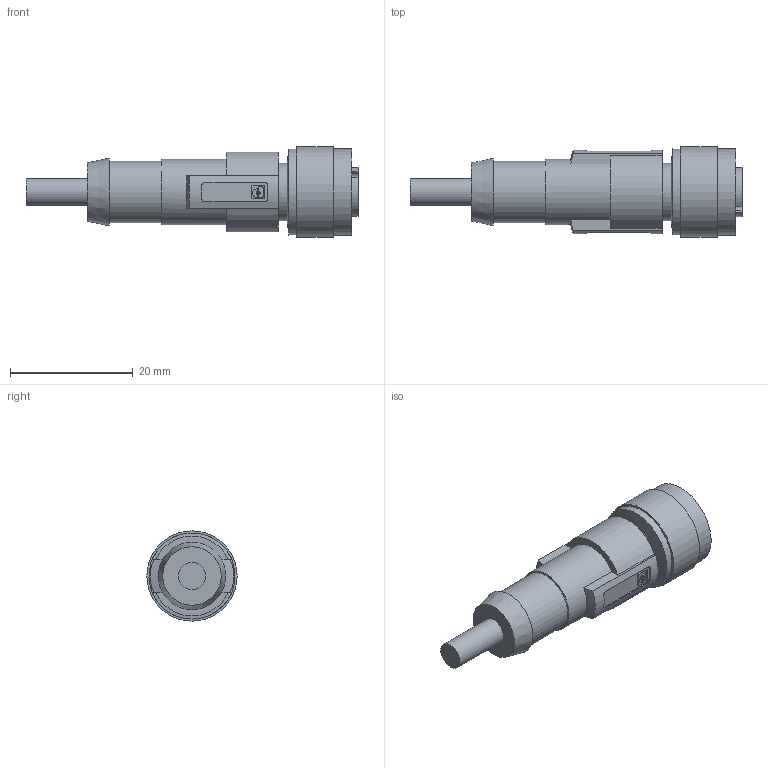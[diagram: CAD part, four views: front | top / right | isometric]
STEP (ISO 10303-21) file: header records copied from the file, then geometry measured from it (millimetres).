
FILE_DESCRIPTION( ( 'Unknown' ), '1' );
FILE_NAME( '//baumernet.org/ch01apps/SolidEdge/Models/Dokumentationen/_Standardteile/Kabeldosen/Phoenix/ES 34/Vereinfachte Modelle/Neutralformate/ESG 34SH.stp', 'Unknown', ( 'Unknown' ), ( 'Unknown' ), 'PSStep 10.0', 'Unknown', ' ' );
FILE_SCHEMA( ( 'AUTOMOTIVE_DESIGN { 1 0 10303 214 1 1 1 1 }' ) );
Length unit declared in the file: millimetre
Products named in the file (1): 1694486
Bounding box: 54 x 14.7 x 14.7 mm (x, y, z)
Volume: 4649 mm3; surface area: 3074 mm2
Topology: 1 solids, 1 shells, 118 faces, 290 edges, 193 vertices
Faces by surface type: plane 48, cylinder 32, cone 24, extrusion 14
Full cylindrical faces by diameter (mm): 1.2 x3, 2 x2, 4.4 x1, 9.3 x1, 10 x1, 10.5 x1, 10.6 x1, 11 x1, 14 x2, 14.7 x1
Entity records: 5679 total; most frequent: CARTESIAN_POINT 2126, ORIENTED_EDGE 526, DIRECTION 480, EDGE_CURVE 263, VERTEX_POINT 187, AXIS2_PLACEMENT_3D 176, EDGE_LOOP 158, FACE_OUTER_BOUND 133
